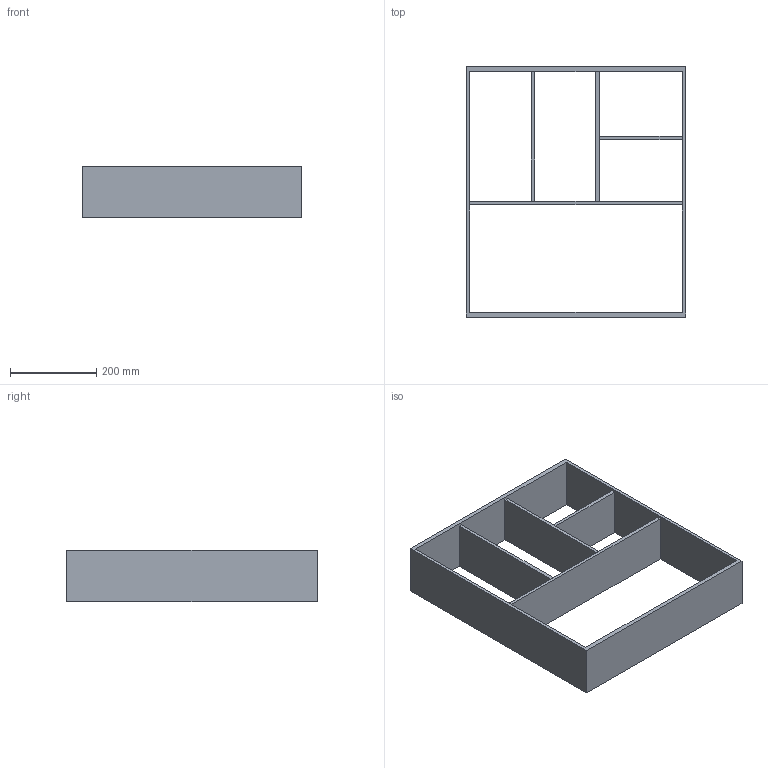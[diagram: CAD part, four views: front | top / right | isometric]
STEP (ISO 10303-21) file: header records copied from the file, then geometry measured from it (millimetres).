
FILE_DESCRIPTION (( 'STEP AP214' ), '1' );
FILE_NAME ('Vario Multi H120 NL600_B600_16 mm_Alu-Buche.step', '2010-10-08T09:47:45', ( 'grass' ), ( '' ), 'SwSTEP 2.0', 'SolidWorks 2010', '' );
FILE_SCHEMA (( 'AUTOMOTIVE_DESIGN' ));
Length unit declared in the file: millimetre
Products named in the file (1): Vario Multi H120 NL600_B600_16 mm_Alu-Buche
Bounding box: 508 x 579 x 120 mm (x, y, z)
Volume: 3580941.2 mm3; surface area: 858655 mm2
Topology: 1 solids, 1 shells, 29 faces, 80 edges, 52 vertices
Faces by surface type: plane 29
Entity records: 956 total; most frequent: CARTESIAN_POINT 162, ORIENTED_EDGE 160, DIRECTION 140, VECTOR 80, LINE 80, EDGE_CURVE 80, VERTEX_POINT 52, EDGE_LOOP 38
